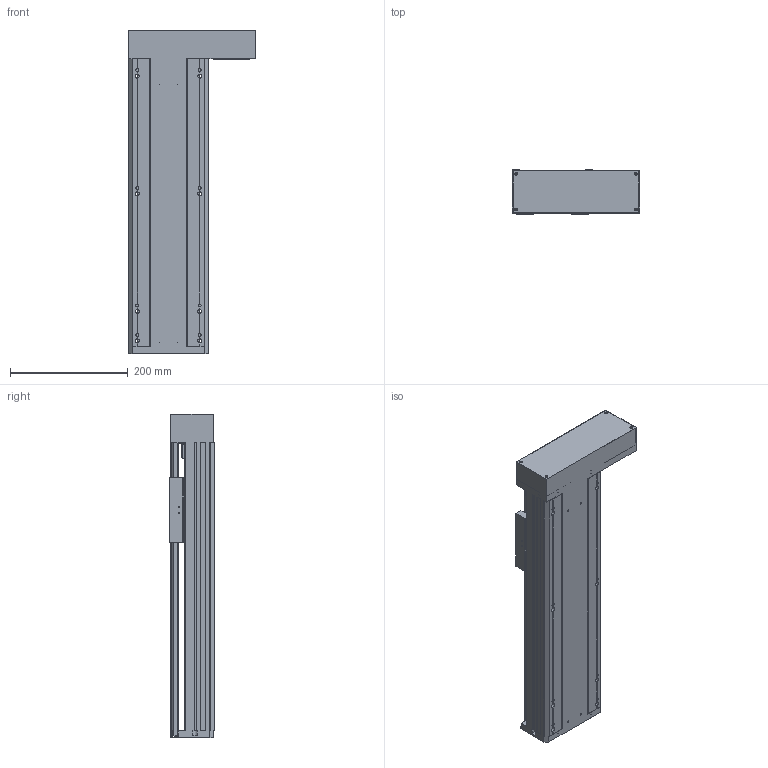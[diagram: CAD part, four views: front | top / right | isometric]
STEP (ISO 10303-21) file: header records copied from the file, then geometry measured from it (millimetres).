
FILE_DESCRIPTION(/* description */ (''),/* implementation_level */ '2;1');
FILE_NAME(/* name */ 'TKA136-FR-300_asm1_stp.stp',/* time_stamp */ '2016-09-08T14:32:57+08:00',/* author */ (''),/* organization */ (''),/* preprocessor_version */ 'ST-DEVELOPER v15',/* originating_system */ 'SIEMENS PLM Software NX 8.5',/* authorisation */ '');
FILE_SCHEMA (('AUTOMOTIVE_DESIGN { 1 0 10303 214 3 1 1 1 }'));
Length unit declared in the file: millimetre
Products named in the file (3): 100-02; 100-01; TKA136-FR-300_asm1_stp
Assembly tree (2 placements, depth 2):
  TKA136-FR-300_asm1_stp
    100-01
    100-02
Bounding box: 216 x 75 x 550 mm (x, y, z)
Volume: 1913247.4 mm3; surface area: 746824.8 mm2
Topology: 2 solids, 12 shells, 865 faces, 2377 edges, 1542 vertices
Faces by surface type: plane 413, cylinder 399, cone 53
Full cylindrical faces by diameter (mm): 2.5 x4, 3 x2, 3.3 x15, 4 x4, 4.2 x14, 4.5 x26, 5 x12, 5.5 x26, 6.6 x12, 8 x20, 10 x9, 10.5 x8, 11 x4, 11.6 x1, 12 x9, 15 x3, 16 x5, 17 x1, 24 x5, 26 x1, 28 x1, 46 x2, 50 x1
Entity records: 28423 total; most frequent: CARTESIAN_POINT 7332, DIRECTION 4397, ORIENTED_EDGE 4062, EDGE_CURVE 2031, AXIS2_PLACEMENT_3D 1673, VERTEX_POINT 1459, EDGE_LOOP 1271, LINE 1051
